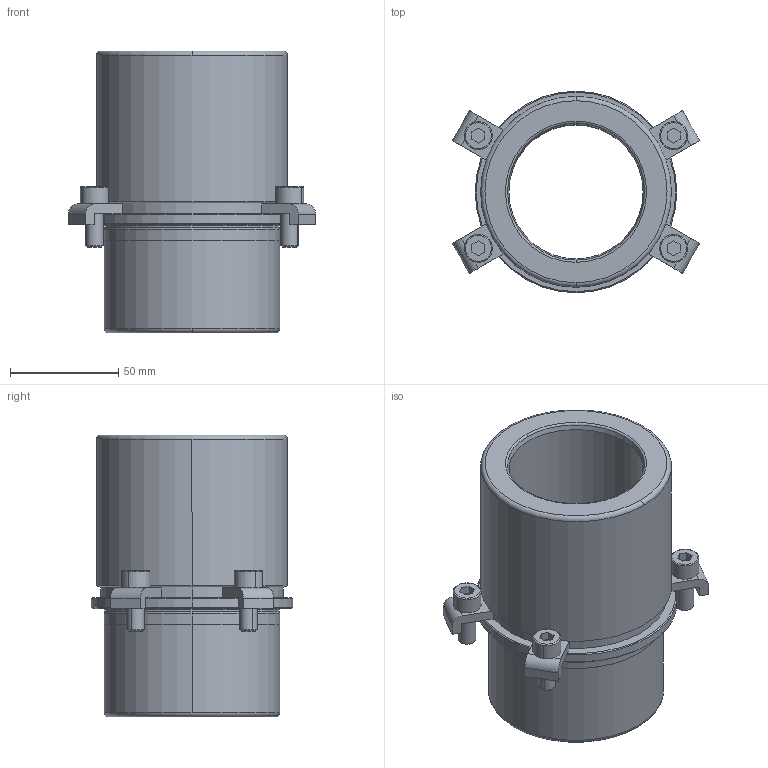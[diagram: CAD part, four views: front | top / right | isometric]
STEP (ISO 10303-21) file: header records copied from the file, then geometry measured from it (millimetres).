
FILE_DESCRIPTION((''),'2;1');
FILE_NAME('B40_050_080.stp','2009-01-05T16:41:57',(''),(''),'Mechanical Desktop 2009','Mechanical Desktop 2009',', , ');
FILE_SCHEMA(('CONFIG_CONTROL_DESIGN'));
Length unit declared in the file: millimetre
Products named in the file (2): Product; blmdl1
Assembly tree (1 placements, depth 2):
  Product
    blmdl1
Bounding box: 114.12 x 93 x 130 mm (x, y, z)
Volume: 364718.1 mm3; surface area: 76677 mm2
Topology: 9 solids, 9 shells, 173 faces, 422 edges, 278 vertices
Faces by surface type: plane 73, cylinder 50, cone 22, torus 16, bspline 12
Entity records: 5767 total; most frequent: CARTESIAN_POINT 1403, DIRECTION 966, ORIENTED_EDGE 844, EDGE_CURVE 422, AXIS2_PLACEMENT_3D 381, VERTEX_POINT 278, CIRCLE 218, VECTOR 204
